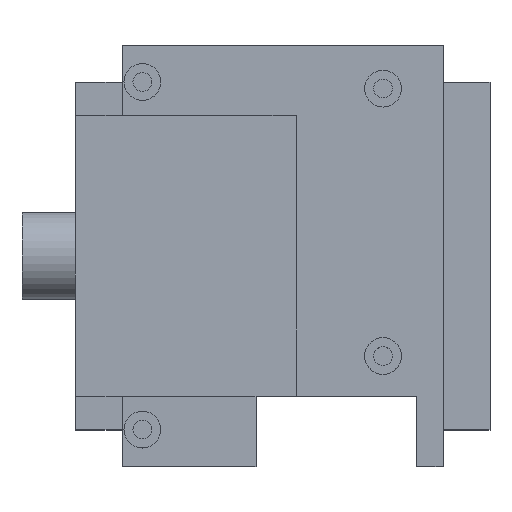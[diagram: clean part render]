
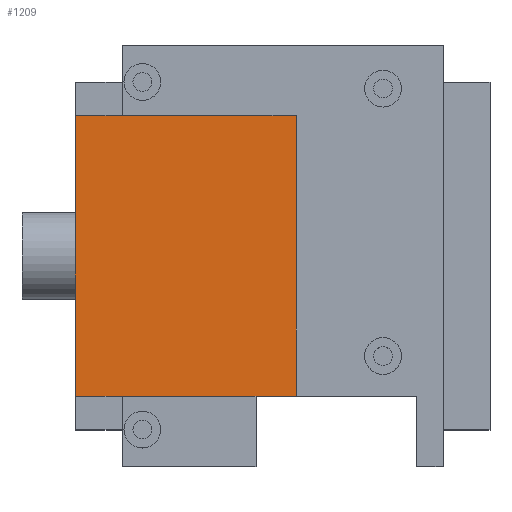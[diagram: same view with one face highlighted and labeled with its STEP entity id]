
A CAD part, top view. The second image highlights one B-rep face of the part: STEP entity #1209.
In plain terms, the highlighted planar face has unit normal (0, 0, 1).
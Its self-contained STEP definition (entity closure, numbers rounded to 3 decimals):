
#177 = PLANE('',#178);
#178 = AXIS2_PLACEMENT_3D('',#179,#180,#181);
#179 = CARTESIAN_POINT('',(-90.,-42.,759.));
#180 = DIRECTION('',(-0.,1.,0.));
#181 = DIRECTION('',(0.,0.,1.));
#294 = EDGE_CURVE('',#295,#297,#299,.T.);
#295 = VERTEX_POINT('',#296);
#296 = CARTESIAN_POINT('',(-62.,-42.,759.));
#297 = VERTEX_POINT('',#298);
#298 = CARTESIAN_POINT('',(-8.,-42.,759.));
#299 = SURFACE_CURVE('',#300,(#304,#311),.PCURVE_S1.);
#300 = LINE('',#301,#302);
#301 = CARTESIAN_POINT('',(-90.,-42.,759.));
#302 = VECTOR('',#303,1.);
#303 = DIRECTION('',(1.,0.,-0.));
#304 = PCURVE('',#177,#305);
#305 = DEFINITIONAL_REPRESENTATION('',(#306),#310);
#306 = LINE('',#307,#308);
#307 = CARTESIAN_POINT('',(0.,0.));
#308 = VECTOR('',#309,1.);
#309 = DIRECTION('',(0.,1.));
#310 = ( GEOMETRIC_REPRESENTATION_CONTEXT(2) 
PARAMETRIC_REPRESENTATION_CONTEXT() REPRESENTATION_CONTEXT('2D SPACE',''
  ) );
#311 = PCURVE('',#312,#317);
#312 = PLANE('',#313);
#313 = AXIS2_PLACEMENT_3D('',#314,#315,#316);
#314 = CARTESIAN_POINT('',(-90.,-42.,759.));
#315 = DIRECTION('',(0.,0.,1.));
#316 = DIRECTION('',(1.,0.,-0.));
#317 = DEFINITIONAL_REPRESENTATION('',(#318),#322);
#318 = LINE('',#319,#320);
#319 = CARTESIAN_POINT('',(0.,0.));
#320 = VECTOR('',#321,1.);
#321 = DIRECTION('',(1.,0.));
#322 = ( GEOMETRIC_REPRESENTATION_CONTEXT(2) 
PARAMETRIC_REPRESENTATION_CONTEXT() REPRESENTATION_CONTEXT('2D SPACE',''
  ) );
#339 = PLANE('',#340);
#340 = AXIS2_PLACEMENT_3D('',#341,#342,#343);
#341 = CARTESIAN_POINT('',(-62.,-52.,714.));
#342 = DIRECTION('',(1.,0.,-0.));
#343 = DIRECTION('',(0.,0.,1.));
#633 = PLANE('',#634);
#634 = AXIS2_PLACEMENT_3D('',#635,#636,#637);
#635 = CARTESIAN_POINT('',(-8.,-42.,700.));
#636 = DIRECTION('',(-0.,1.,0.));
#637 = DIRECTION('',(0.,0.,1.));
#1209 = ADVANCED_FACE('',(#1210),#312,.T.);
#1210 = FACE_BOUND('',#1211,.T.);
#1211 = EDGE_LOOP('',(#1212,#1242,#1261,#1262,#1285));
#1212 = ORIENTED_EDGE('',*,*,#1213,.F.);
#1213 = EDGE_CURVE('',#1214,#1216,#1218,.T.);
#1214 = VERTEX_POINT('',#1215);
#1215 = CARTESIAN_POINT('',(-62.,42.,759.));
#1216 = VERTEX_POINT('',#1217);
#1217 = CARTESIAN_POINT('',(4.,42.,759.));
#1218 = SURFACE_CURVE('',#1219,(#1223,#1230),.PCURVE_S1.);
#1219 = LINE('',#1220,#1221);
#1220 = CARTESIAN_POINT('',(-90.,42.,759.));
#1221 = VECTOR('',#1222,1.);
#1222 = DIRECTION('',(1.,0.,-0.));
#1223 = PCURVE('',#312,#1224);
#1224 = DEFINITIONAL_REPRESENTATION('',(#1225),#1229);
#1225 = LINE('',#1226,#1227);
#1226 = CARTESIAN_POINT('',(0.,84.));
#1227 = VECTOR('',#1228,1.);
#1228 = DIRECTION('',(1.,0.));
#1229 = ( GEOMETRIC_REPRESENTATION_CONTEXT(2) 
PARAMETRIC_REPRESENTATION_CONTEXT() REPRESENTATION_CONTEXT('2D SPACE',''
  ) );
#1230 = PCURVE('',#1231,#1236);
#1231 = PLANE('',#1232);
#1232 = AXIS2_PLACEMENT_3D('',#1233,#1234,#1235);
#1233 = CARTESIAN_POINT('',(-90.,42.,759.));
#1234 = DIRECTION('',(-0.,1.,0.));
#1235 = DIRECTION('',(0.,0.,1.));
#1236 = DEFINITIONAL_REPRESENTATION('',(#1237),#1241);
#1237 = LINE('',#1238,#1239);
#1238 = CARTESIAN_POINT('',(0.,0.));
#1239 = VECTOR('',#1240,1.);
#1240 = DIRECTION('',(0.,1.));
#1241 = ( GEOMETRIC_REPRESENTATION_CONTEXT(2) 
PARAMETRIC_REPRESENTATION_CONTEXT() REPRESENTATION_CONTEXT('2D SPACE',''
  ) );
#1242 = ORIENTED_EDGE('',*,*,#1243,.T.);
#1243 = EDGE_CURVE('',#1214,#295,#1244,.T.);
#1244 = SURFACE_CURVE('',#1245,(#1249,#1255),.PCURVE_S1.);
#1245 = LINE('',#1246,#1247);
#1246 = CARTESIAN_POINT('',(-62.,-47.,759.));
#1247 = VECTOR('',#1248,1.);
#1248 = DIRECTION('',(0.,-1.,0.));
#1249 = PCURVE('',#312,#1250);
#1250 = DEFINITIONAL_REPRESENTATION('',(#1251),#1254);
#1251 = B_SPLINE_CURVE_WITH_KNOTS('',1,(#1252,#1253),.UNSPECIFIED.,.F.,
  .F.,(2,2),(-89.,-5.),.PIECEWISE_BEZIER_KNOTS.);
#1252 = CARTESIAN_POINT('',(28.,84.));
#1253 = CARTESIAN_POINT('',(28.,0.));
#1254 = ( GEOMETRIC_REPRESENTATION_CONTEXT(2) 
PARAMETRIC_REPRESENTATION_CONTEXT() REPRESENTATION_CONTEXT('2D SPACE',''
  ) );
#1255 = PCURVE('',#339,#1256);
#1256 = DEFINITIONAL_REPRESENTATION('',(#1257),#1260);
#1257 = B_SPLINE_CURVE_WITH_KNOTS('',1,(#1258,#1259),.UNSPECIFIED.,.F.,
  .F.,(2,2),(-89.,-5.),.PIECEWISE_BEZIER_KNOTS.);
#1258 = CARTESIAN_POINT('',(45.,-94.));
#1259 = CARTESIAN_POINT('',(45.,-10.));
#1260 = ( GEOMETRIC_REPRESENTATION_CONTEXT(2) 
PARAMETRIC_REPRESENTATION_CONTEXT() REPRESENTATION_CONTEXT('2D SPACE',''
  ) );
#1261 = ORIENTED_EDGE('',*,*,#294,.T.);
#1262 = ORIENTED_EDGE('',*,*,#1263,.T.);
#1263 = EDGE_CURVE('',#297,#1264,#1266,.T.);
#1264 = VERTEX_POINT('',#1265);
#1265 = CARTESIAN_POINT('',(4.,-42.,759.));
#1266 = SURFACE_CURVE('',#1267,(#1271,#1278),.PCURVE_S1.);
#1267 = LINE('',#1268,#1269);
#1268 = CARTESIAN_POINT('',(-90.,-42.,759.));
#1269 = VECTOR('',#1270,1.);
#1270 = DIRECTION('',(1.,0.,-0.));
#1271 = PCURVE('',#312,#1272);
#1272 = DEFINITIONAL_REPRESENTATION('',(#1273),#1277);
#1273 = LINE('',#1274,#1275);
#1274 = CARTESIAN_POINT('',(0.,0.));
#1275 = VECTOR('',#1276,1.);
#1276 = DIRECTION('',(1.,0.));
#1277 = ( GEOMETRIC_REPRESENTATION_CONTEXT(2) 
PARAMETRIC_REPRESENTATION_CONTEXT() REPRESENTATION_CONTEXT('2D SPACE',''
  ) );
#1278 = PCURVE('',#633,#1279);
#1279 = DEFINITIONAL_REPRESENTATION('',(#1280),#1284);
#1280 = LINE('',#1281,#1282);
#1281 = CARTESIAN_POINT('',(59.,-82.));
#1282 = VECTOR('',#1283,1.);
#1283 = DIRECTION('',(0.,1.));
#1284 = ( GEOMETRIC_REPRESENTATION_CONTEXT(2) 
PARAMETRIC_REPRESENTATION_CONTEXT() REPRESENTATION_CONTEXT('2D SPACE',''
  ) );
#1285 = ORIENTED_EDGE('',*,*,#1286,.T.);
#1286 = EDGE_CURVE('',#1264,#1216,#1287,.T.);
#1287 = SURFACE_CURVE('',#1288,(#1292,#1299),.PCURVE_S1.);
#1288 = LINE('',#1289,#1290);
#1289 = CARTESIAN_POINT('',(4.,-42.,759.));
#1290 = VECTOR('',#1291,1.);
#1291 = DIRECTION('',(-0.,1.,0.));
#1292 = PCURVE('',#312,#1293);
#1293 = DEFINITIONAL_REPRESENTATION('',(#1294),#1298);
#1294 = LINE('',#1295,#1296);
#1295 = CARTESIAN_POINT('',(94.,0.));
#1296 = VECTOR('',#1297,1.);
#1297 = DIRECTION('',(0.,1.));
#1298 = ( GEOMETRIC_REPRESENTATION_CONTEXT(2) 
PARAMETRIC_REPRESENTATION_CONTEXT() REPRESENTATION_CONTEXT('2D SPACE',''
  ) );
#1299 = PCURVE('',#1300,#1305);
#1300 = PLANE('',#1301);
#1301 = AXIS2_PLACEMENT_3D('',#1302,#1303,#1304);
#1302 = CARTESIAN_POINT('',(4.,-42.,759.));
#1303 = DIRECTION('',(1.,0.,-0.));
#1304 = DIRECTION('',(0.,0.,1.));
#1305 = DEFINITIONAL_REPRESENTATION('',(#1306),#1310);
#1306 = LINE('',#1307,#1308);
#1307 = CARTESIAN_POINT('',(0.,0.));
#1308 = VECTOR('',#1309,1.);
#1309 = DIRECTION('',(0.,-1.));
#1310 = ( GEOMETRIC_REPRESENTATION_CONTEXT(2) 
PARAMETRIC_REPRESENTATION_CONTEXT() REPRESENTATION_CONTEXT('2D SPACE',''
  ) );
